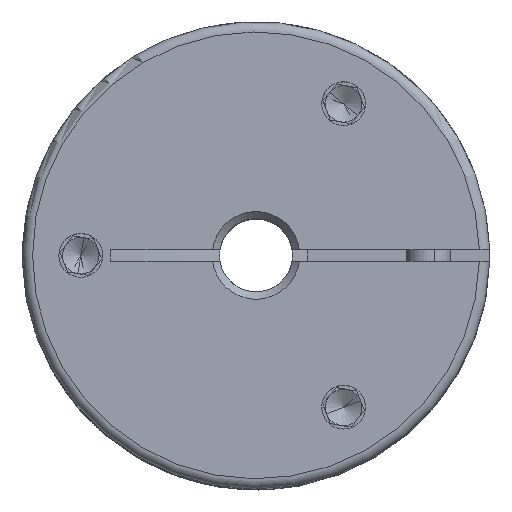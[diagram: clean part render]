
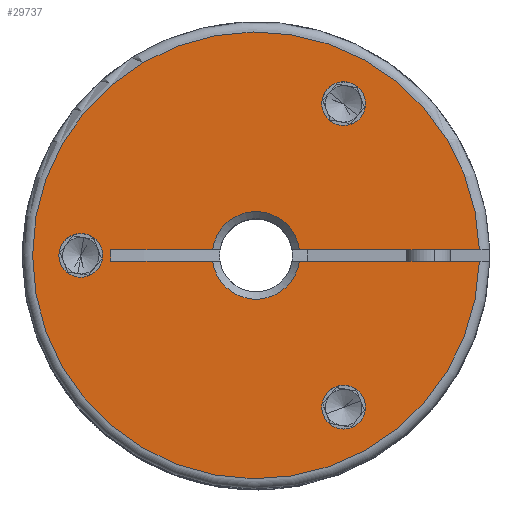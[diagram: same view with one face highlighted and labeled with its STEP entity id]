
A CAD part, top view. The second image highlights one B-rep face of the part: STEP entity #29737.
In plain terms, the highlighted planar face has unit normal (0, 0, 1).
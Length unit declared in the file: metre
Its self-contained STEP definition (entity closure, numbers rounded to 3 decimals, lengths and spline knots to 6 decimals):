
#66 = VERTEX_POINT ( 'NONE', #21081 ) ;
#151 = EDGE_CURVE ( 'NONE', #20485, #3792, #29486, .T. ) ;
#384 = EDGE_CURVE ( 'NONE', #32418, #539, #29866, .T. ) ;
#488 = VECTOR ( 'NONE', #7272, 1. ) ;
#539 = VERTEX_POINT ( 'NONE', #15200 ) ;
#740 = CARTESIAN_POINT ( 'NONE',  ( 0.0045, -0.010392, 0.02 ) ) ;
#979 = VECTOR ( 'NONE', #29086, 1. ) ;
#1191 = DIRECTION ( 'NONE',  ( 0., 0., 1. ) ) ;
#1372 = EDGE_LOOP ( 'NONE', ( #27529, #19029, #24736, #10781, #30242, #11440, #27105, #25701 ) ) ;
#1667 = CIRCLE ( 'NONE', #2981, 0.0015 ) ;
#1706 = EDGE_CURVE ( 'NONE', #22590, #20751, #19840, .T. ) ;
#1761 = CARTESIAN_POINT ( 'NONE',  ( -0.009951, 0.0004, 0.02 ) ) ;
#1767 = EDGE_LOOP ( 'NONE', ( #19082, #15230 ) ) ;
#1834 = AXIS2_PLACEMENT_3D ( 'NONE', #30893, #3507, #3291 ) ;
#2325 = EDGE_CURVE ( 'NONE', #15528, #539, #18623, .T. ) ;
#2419 = AXIS2_PLACEMENT_3D ( 'NONE', #11708, #16827, #17825 ) ;
#2527 = CARTESIAN_POINT ( 'NONE',  ( -0.012, 0., 0.02 ) ) ;
#2981 = AXIS2_PLACEMENT_3D ( 'NONE', #2527, #9715, #27216 ) ;
#3046 = CARTESIAN_POINT ( 'NONE',  ( -0.002973, -0.0004, 0.02 ) ) ;
#3084 = ORIENTED_EDGE ( 'NONE', *, *, #8556, .F. ) ;
#3145 = DIRECTION ( 'NONE',  ( 1., 0., 0. ) ) ;
#3194 = CARTESIAN_POINT ( 'NONE',  ( 0.0045, 0.010392, 0.02 ) ) ;
#3239 = EDGE_LOOP ( 'NONE', ( #5858, #3084 ) ) ;
#3291 = DIRECTION ( 'NONE',  ( 1., 0., 0. ) ) ;
#3367 = DIRECTION ( 'NONE',  ( 0., 0., -1. ) ) ;
#3507 = DIRECTION ( 'NONE',  ( 0., 0., 1. ) ) ;
#3792 = VERTEX_POINT ( 'NONE', #5841 ) ;
#3803 = CARTESIAN_POINT ( 'NONE',  ( 0.006, 0.010392, 0.02 ) ) ;
#3842 = CARTESIAN_POINT ( 'NONE',  ( -0.009951, -0.0004, 0.02 ) ) ;
#3883 = CARTESIAN_POINT ( 'NONE',  ( 0., -0.0004, 0.02 ) ) ;
#4831 = LINE ( 'NONE', #7371, #21290 ) ;
#4984 = EDGE_CURVE ( 'NONE', #30071, #32418, #5117, .T. ) ;
#5009 = CARTESIAN_POINT ( 'NONE',  ( 0., 0.0004, 0.02 ) ) ;
#5022 = AXIS2_PLACEMENT_3D ( 'NONE', #31305, #1191, #6282 ) ;
#5114 = CIRCLE ( 'NONE', #5022, 0.0015 ) ;
#5117 = CIRCLE ( 'NONE', #22216, 0.003 ) ;
#5336 = CIRCLE ( 'NONE', #1834, 0.0015 ) ;
#5841 = CARTESIAN_POINT ( 'NONE',  ( 0.0075, 0.010392, 0.02 ) ) ;
#5858 = ORIENTED_EDGE ( 'NONE', *, *, #30055, .F. ) ;
#5918 = DIRECTION ( 'NONE',  ( 0., 0., 1. ) ) ;
#6108 = CARTESIAN_POINT ( 'NONE',  ( -0.0135, 0., 0.02 ) ) ;
#6282 = DIRECTION ( 'NONE',  ( 1., 0., 0. ) ) ;
#6984 = EDGE_LOOP ( 'NONE', ( #29446, #21658 ) ) ;
#7102 = FACE_BOUND ( 'NONE', #1767, .T. ) ;
#7272 = DIRECTION ( 'NONE',  ( -1., 0., 0. ) ) ;
#7371 = CARTESIAN_POINT ( 'NONE',  ( 0., 0.0004, 0.02 ) ) ;
#7410 = DIRECTION ( 'NONE',  ( 0., 0., 1. ) ) ;
#7743 = EDGE_CURVE ( 'NONE', #66, #10712, #5336, .T. ) ;
#7765 = VERTEX_POINT ( 'NONE', #6108 ) ;
#7888 = VERTEX_POINT ( 'NONE', #21547 ) ;
#8029 = DIRECTION ( 'NONE',  ( 0., 0., 1. ) ) ;
#8556 = EDGE_CURVE ( 'NONE', #7765, #21597, #9351, .T. ) ;
#9351 = CIRCLE ( 'NONE', #23757, 0.0015 ) ;
#9368 = DIRECTION ( 'NONE',  ( 0., -1., 0. ) ) ;
#9488 = CARTESIAN_POINT ( 'NONE',  ( 0.015295, 0.0004, 0.02 ) ) ;
#9715 = DIRECTION ( 'NONE',  ( 0., 0., 1. ) ) ;
#10619 = CIRCLE ( 'NONE', #18633, 0.0015 ) ;
#10696 = EDGE_CURVE ( 'NONE', #20751, #30071, #24155, .T. ) ;
#10712 = VERTEX_POINT ( 'NONE', #740 ) ;
#10730 = DIRECTION ( 'NONE',  ( 1., 0., 0. ) ) ;
#10781 = ORIENTED_EDGE ( 'NONE', *, *, #384, .T. ) ;
#10829 = PLANE ( 'NONE',  #25813 ) ;
#10908 = DIRECTION ( 'NONE',  ( 1., 0., 0. ) ) ;
#11056 = AXIS2_PLACEMENT_3D ( 'NONE', #3803, #28897, #24112 ) ;
#11240 = CARTESIAN_POINT ( 'NONE',  ( -0.012, 0., 0.02 ) ) ;
#11440 = ORIENTED_EDGE ( 'NONE', *, *, #28416, .F. ) ;
#11708 = CARTESIAN_POINT ( 'NONE',  ( 0., 0., 0.02 ) ) ;
#11828 = VERTEX_POINT ( 'NONE', #28151 ) ;
#12230 = FACE_BOUND ( 'NONE', #3239, .T. ) ;
#12496 = DIRECTION ( 'NONE',  ( 1., 0., 0. ) ) ;
#13410 = DIRECTION ( 'NONE',  ( 1., 0., 0. ) ) ;
#14023 = EDGE_CURVE ( 'NONE', #22590, #11828, #28625, .T. ) ;
#14573 = FACE_OUTER_BOUND ( 'NONE', #1372, .T. ) ;
#15200 = CARTESIAN_POINT ( 'NONE',  ( -0.009951, -0.0004, 0.02 ) ) ;
#15230 = ORIENTED_EDGE ( 'NONE', *, *, #15876, .F. ) ;
#15260 = DIRECTION ( 'NONE',  ( -1., 0., 0. ) ) ;
#15528 = VERTEX_POINT ( 'NONE', #1761 ) ;
#15750 = EDGE_CURVE ( 'NONE', #3792, #20485, #10619, .T. ) ;
#15876 = EDGE_CURVE ( 'NONE', #10712, #66, #5114, .T. ) ;
#16827 = DIRECTION ( 'NONE',  ( 0., 0., -1. ) ) ;
#17406 = CARTESIAN_POINT ( 'NONE',  ( 0.002973, -0.0004, 0.02 ) ) ;
#17513 = CARTESIAN_POINT ( 'NONE',  ( 0., 0., 0.02 ) ) ;
#17825 = DIRECTION ( 'NONE',  ( 1., 0., 0. ) ) ;
#18623 = LINE ( 'NONE', #3842, #29152 ) ;
#18633 = AXIS2_PLACEMENT_3D ( 'NONE', #20562, #8029, #3145 ) ;
#19029 = ORIENTED_EDGE ( 'NONE', *, *, #10696, .T. ) ;
#19082 = ORIENTED_EDGE ( 'NONE', *, *, #7743, .F. ) ;
#19840 = CIRCLE ( 'NONE', #22431, 0.0153 ) ;
#20485 = VERTEX_POINT ( 'NONE', #3194 ) ;
#20562 = CARTESIAN_POINT ( 'NONE',  ( 0.006, 0.010392, 0.02 ) ) ;
#20751 = VERTEX_POINT ( 'NONE', #29918 ) ;
#20752 = CARTESIAN_POINT ( 'NONE',  ( 0., -0.0004, 0.02 ) ) ;
#20933 = CARTESIAN_POINT ( 'NONE',  ( 0., 0., 0.02 ) ) ;
#21081 = CARTESIAN_POINT ( 'NONE',  ( 0.0075, -0.010392, 0.02 ) ) ;
#21290 = VECTOR ( 'NONE', #29773, 1. ) ;
#21547 = CARTESIAN_POINT ( 'NONE',  ( -0.002973, 0.0004, 0.02 ) ) ;
#21597 = VERTEX_POINT ( 'NONE', #28678 ) ;
#21658 = ORIENTED_EDGE ( 'NONE', *, *, #151, .F. ) ;
#22216 = AXIS2_PLACEMENT_3D ( 'NONE', #25653, #3367, #13410 ) ;
#22431 = AXIS2_PLACEMENT_3D ( 'NONE', #17513, #7410, #12496 ) ;
#22590 = VERTEX_POINT ( 'NONE', #9488 ) ;
#23757 = AXIS2_PLACEMENT_3D ( 'NONE', #11240, #28390, #10908 ) ;
#24112 = DIRECTION ( 'NONE',  ( 1., 0., 0. ) ) ;
#24155 = LINE ( 'NONE', #20752, #28426 ) ;
#24736 = ORIENTED_EDGE ( 'NONE', *, *, #4984, .T. ) ;
#25386 = CIRCLE ( 'NONE', #2419, 0.003 ) ;
#25653 = CARTESIAN_POINT ( 'NONE',  ( 0., 0., 0.02 ) ) ;
#25701 = ORIENTED_EDGE ( 'NONE', *, *, #14023, .F. ) ;
#25813 = AXIS2_PLACEMENT_3D ( 'NONE', #20933, #5918, #10730 ) ;
#27105 = ORIENTED_EDGE ( 'NONE', *, *, #31536, .T. ) ;
#27216 = DIRECTION ( 'NONE',  ( 1., 0., 0. ) ) ;
#27529 = ORIENTED_EDGE ( 'NONE', *, *, #1706, .T. ) ;
#28151 = CARTESIAN_POINT ( 'NONE',  ( 0.002973, 0.0004, 0.02 ) ) ;
#28390 = DIRECTION ( 'NONE',  ( 0., 0., 1. ) ) ;
#28416 = EDGE_CURVE ( 'NONE', #7888, #15528, #4831, .T. ) ;
#28426 = VECTOR ( 'NONE', #15260, 1. ) ;
#28625 = LINE ( 'NONE', #5009, #488 ) ;
#28678 = CARTESIAN_POINT ( 'NONE',  ( -0.0105, 0., 0.02 ) ) ;
#28897 = DIRECTION ( 'NONE',  ( 0., 0., 1. ) ) ;
#29086 = DIRECTION ( 'NONE',  ( -1., 0., 0. ) ) ;
#29152 = VECTOR ( 'NONE', #9368, 1. ) ;
#29446 = ORIENTED_EDGE ( 'NONE', *, *, #15750, .F. ) ;
#29486 = CIRCLE ( 'NONE', #11056, 0.0015 ) ;
#29737 = ADVANCED_FACE ( 'NONE', ( #12230, #29772, #7102, #14573 ), #10829, .T. ) ;
#29773 = DIRECTION ( 'NONE',  ( -1., 0., 0. ) ) ;
#29772 = FACE_BOUND ( 'NONE', #6984, .T. ) ;
#29866 = LINE ( 'NONE', #3883, #979 ) ;
#29918 = CARTESIAN_POINT ( 'NONE',  ( 0.015295, -0.0004, 0.02 ) ) ;
#30055 = EDGE_CURVE ( 'NONE', #21597, #7765, #1667, .T. ) ;
#30071 = VERTEX_POINT ( 'NONE', #17406 ) ;
#30242 = ORIENTED_EDGE ( 'NONE', *, *, #2325, .F. ) ;
#30893 = CARTESIAN_POINT ( 'NONE',  ( 0.006, -0.010392, 0.02 ) ) ;
#31305 = CARTESIAN_POINT ( 'NONE',  ( 0.006, -0.010392, 0.02 ) ) ;
#31536 = EDGE_CURVE ( 'NONE', #7888, #11828, #25386, .T. ) ;
#32418 = VERTEX_POINT ( 'NONE', #3046 ) ;
